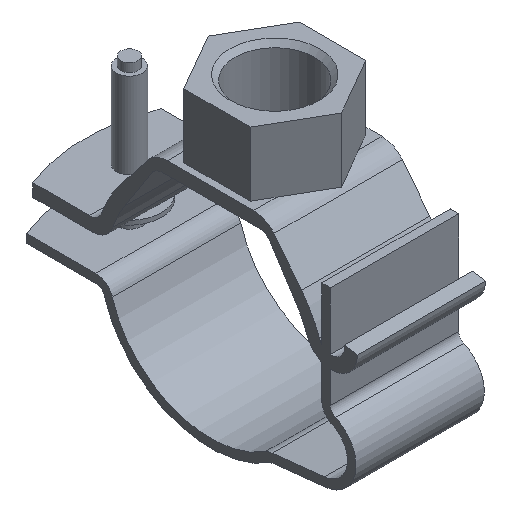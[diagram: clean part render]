
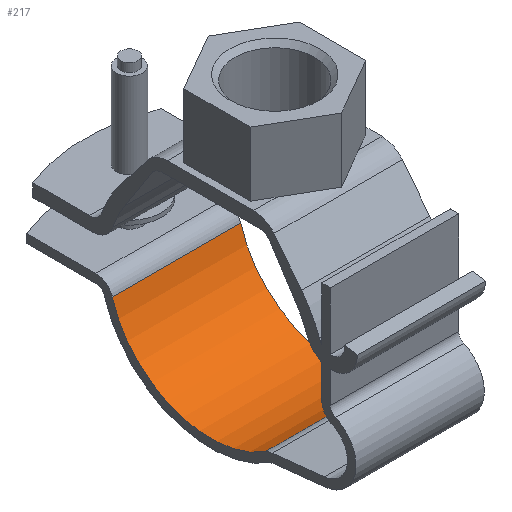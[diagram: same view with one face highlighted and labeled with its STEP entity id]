
A CAD part, isometric view. The second image highlights one B-rep face of the part: STEP entity #217.
In plain terms, the highlighted cylindrical face has radius 24 mm (diameter 48 mm), a partial arc.
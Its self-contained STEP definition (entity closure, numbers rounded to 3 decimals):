
#217 = ADVANCED_FACE( '', ( #455 ), #456, .F. );
#455 = FACE_OUTER_BOUND( '', #702, .T. );
#456 = CYLINDRICAL_SURFACE( '', #703, 24. );
#702 = EDGE_LOOP( '', ( #1275, #1276, #1277, #1278 ) );
#703 = AXIS2_PLACEMENT_3D( '', #1279, #1280, #1281 );
#1275 = ORIENTED_EDGE( '', *, *, #1508, .F. );
#1276 = ORIENTED_EDGE( '', *, *, #1549, .F. );
#1277 = ORIENTED_EDGE( '', *, *, #1669, .T. );
#1278 = ORIENTED_EDGE( '', *, *, #1670, .T. );
#1279 = CARTESIAN_POINT( '', ( 15., 0., 0. ) );
#1280 = DIRECTION( '', ( 1., 0., 0. ) );
#1281 = DIRECTION( '', ( 0., 0., 1. ) );
#1508 = EDGE_CURVE( '', #1837, #1839, #1840, .T. );
#1549 = EDGE_CURVE( '', #1899, #1837, #1901, .T. );
#1669 = EDGE_CURVE( '', #1899, #2059, #2060, .T. );
#1670 = EDGE_CURVE( '', #2059, #1839, #2061, .T. );
#1837 = VERTEX_POINT( '', #2277 );
#1839 = VERTEX_POINT( '', #2279 );
#1840 = CIRCLE( '', #2280, 24. );
#1899 = VERTEX_POINT( '', #2358 );
#1901 = LINE( '', #2360, #2361 );
#2059 = VERTEX_POINT( '', #2571 );
#2060 = CIRCLE( '', #2572, 24. );
#2061 = LINE( '', #2573, #2574 );
#2277 = CARTESIAN_POINT( '', ( -15., -12.702, -20.363 ) );
#2279 = CARTESIAN_POINT( '', ( -15., 23., -6.857 ) );
#2280 = AXIS2_PLACEMENT_3D( '', #2718, #2719, #2720 );
#2358 = CARTESIAN_POINT( '', ( 15., -12.702, -20.363 ) );
#2360 = CARTESIAN_POINT( '', ( 15., -12.702, -20.363 ) );
#2361 = VECTOR( '', #2773, 1000. );
#2571 = CARTESIAN_POINT( '', ( 15., 23., -6.857 ) );
#2572 = AXIS2_PLACEMENT_3D( '', #2901, #2902, #2903 );
#2573 = CARTESIAN_POINT( '', ( 15., 23., -6.857 ) );
#2574 = VECTOR( '', #2904, 1000. );
#2718 = CARTESIAN_POINT( '', ( -15., 0., 0. ) );
#2719 = DIRECTION( '', ( 1., 0., 0. ) );
#2720 = DIRECTION( '', ( 0., 0., -1. ) );
#2773 = DIRECTION( '', ( -1., 0., 0. ) );
#2901 = CARTESIAN_POINT( '', ( 15., 0., 0. ) );
#2902 = DIRECTION( '', ( 1., 0., 0. ) );
#2903 = DIRECTION( '', ( 0., 0., -1. ) );
#2904 = DIRECTION( '', ( -1., 0., 0. ) );
